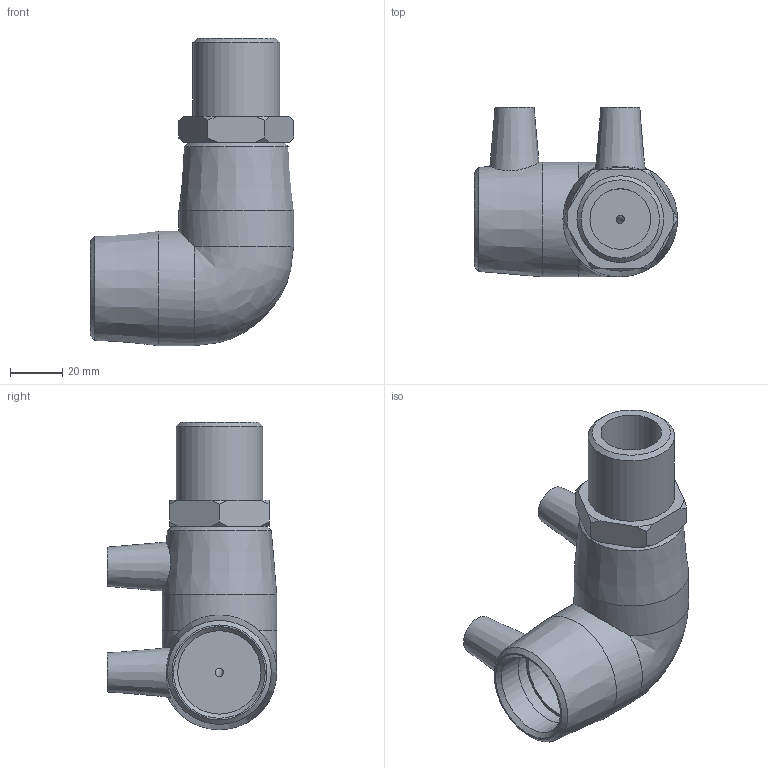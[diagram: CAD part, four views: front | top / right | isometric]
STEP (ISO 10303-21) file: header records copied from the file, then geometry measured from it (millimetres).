
FILE_DESCRIPTION(/* description */ ('PE Male Transition Elbow 90° 32x 1'),/* implementation_level */ '2;1');
FILE_NAME(/* name */ 'C:\Dropbox\KIMPROJECTS-Inventor\99-16-3568-Processing\ElectroFusion Fittings\21.04\497504\497504032010.ipt.stp',/* time_stamp */ '2019-04-21T15:12:59+03:00',/* author */ ('KIM'),/* organization */ (''),/* preprocessor_version */ 'ST-DEVELOPER v15.6',/* originating_system */ 'Autodesk Inventor 2015',/* authorisation */ '');
FILE_SCHEMA (('AUTOMOTIVE_DESIGN { 1 0 10303 214 3 1 1 }'));
Length unit declared in the file: millimetre
Products named in the file (1): 497504032010
Bounding box: 78 x 65 x 118 mm (x, y, z)
Volume: 148210.8 mm3; surface area: 41343.1 mm2
Topology: 2 solids, 2 shells, 60 faces, 134 edges, 86 vertices
Faces by surface type: plane 22, cone 22, cylinder 14, bspline 1, torus 1
Full cylindrical faces by diameter (mm): 3.2 x1, 4 x2, 10 x2, 23.274 x1, 24 x1, 32 x4, 33.249 x1, 44 x2
Entity records: 1535 total; most frequent: CARTESIAN_POINT 374, DIRECTION 242, ORIENTED_EDGE 192, AXIS2_PLACEMENT_3D 112, EDGE_LOOP 101, EDGE_CURVE 96, VERTEX_POINT 77, FACE_OUTER_BOUND 60
